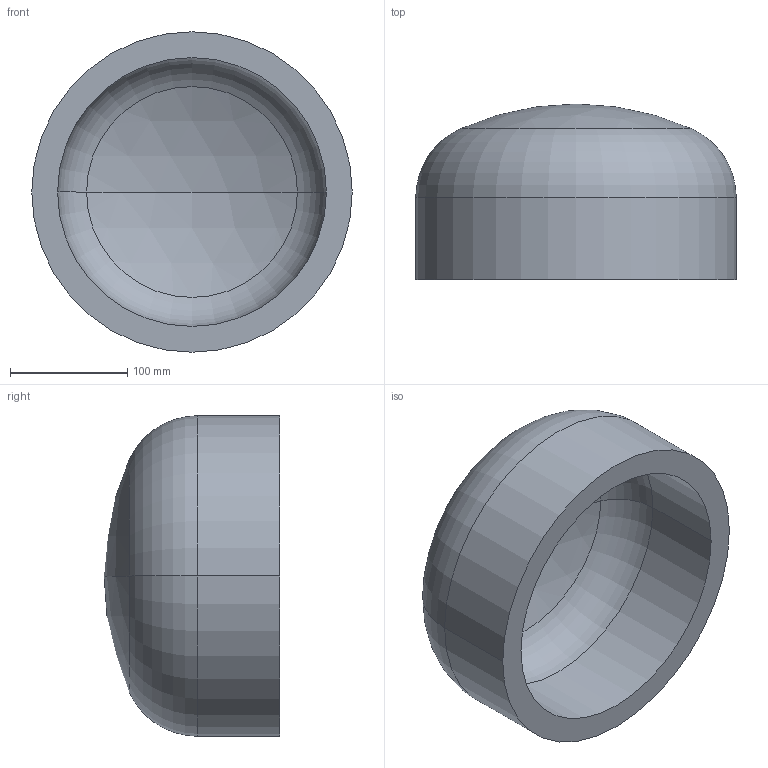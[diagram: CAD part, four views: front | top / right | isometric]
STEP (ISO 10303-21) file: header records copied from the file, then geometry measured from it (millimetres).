
FILE_DESCRIPTION (( 'STEP AP203' ), '1' );
FILE_NAME ('DIN 28013 Korbbogenform_-_Boden DIN 28013 - 273 x 70 - I - s=22.step', '2016-07-01T07:43:27', ( '' ), ( '' ), 'SwSTEP 2.0', 'SolidWorks 2013', '' );
FILE_SCHEMA (( 'CONFIG_CONTROL_DESIGN' ));
Length unit declared in the file: millimetre
Products named in the file (1): DIN 28013 Korbbogenform_-_Boden DIN 28013 - 273 x 70 - I - s=22
Bounding box: 273 x 149.63 x 273 mm (x, y, z)
Volume: 2826153.5 mm3; surface area: 275284.6 mm2
Topology: 1 solids, 1 shells, 13 faces, 24 edges, 14 vertices
Faces by surface type: torus 4, cylinder 4, sphere 4, plane 1
Entity records: 407 total; most frequent: DIRECTION 72, CARTESIAN_POINT 52, ORIENTED_EDGE 48, AXIS2_PLACEMENT_3D 34, EDGE_CURVE 24, CIRCLE 20, VERTEX_POINT 14, EDGE_LOOP 14
